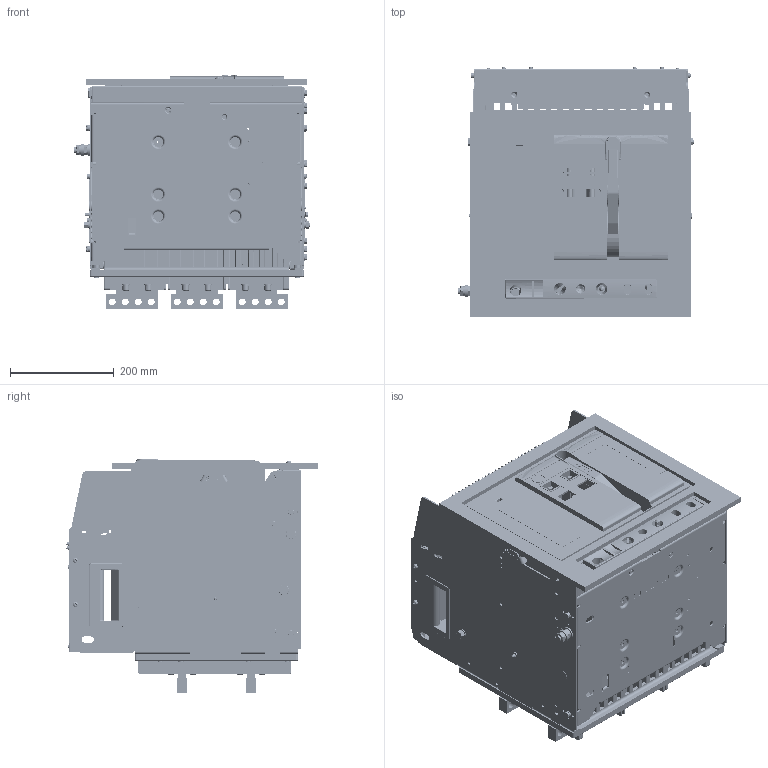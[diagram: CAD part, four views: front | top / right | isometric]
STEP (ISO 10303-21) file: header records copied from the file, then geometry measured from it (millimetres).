
FILE_DESCRIPTION (( 'STEP AP214' ), '1' );
FILE_NAME ('TGW1N-4000 D 3Ð 2500.STEP', '2026-06-04T10:04:52', ( '' ), ( '' ), 'SwSTEP 2.0', 'SolidWorks 2024', '' );
FILE_SCHEMA (( 'AUTOMOTIVE_DESIGN' ));
Length unit declared in the file: millimetre
Products named in the file (41): TGW1N-4000 D 3Р 2500; 6TZD_229_6011_AF0_ASM_1_ASM_1_ASM.stp; 8TZD_020_1016_1_1.stp; TENGEN_Рамка_3200-6300_Drawer; 5TZD_020_1044_AF0_ASM_1_ASM_1_ASM.stp; 8TZD_001_1005_1_1.stp; CTZ_1_1_2_ASM-0.stp; CTZ_1_1_2_2.stp; CTZ_1_1_2_ASM.stp; GB_T70_1-M6X20_1_1.stp; FHZ_1.stp; 2TZD_257_6012_ASM_1_ASM_1_ASM.stp; 8TZD_580_1082_AF3_1_1.stp; 5TZD_260_1003_AF1_ASM_1_ASM_1_ASM.stp; GB_T70_1-M8X25_1_1.stp; MZ_1.stp; GB_T93-6_1_1.stp; ASM0002_ASM_1_1.stp; TENGEN_TGW1N-4000_3p_2900-3200A_D (2).stp; 5TZD_020_1043_ASM_1_ASM_1_ASM.stp; 8TZD_580_1082_AF0_1_1.stp; 8TZD_311_1031_1_1.stp; GB_T97_1_6_1_1.stp; 8TZD_580_1088_1_1.stp; CTZ_1_1_2_3.stp; 8TZD_580_1083_AF0_1_1.stp; 8TZD_580_1083_AF1_1_1.stp; 8TZD_087_6008.stp; 8TZD_580_1082_AF1_1_1.stp; GB_T819_1-M6X16_1_1.stp; 5TZD_558_1012_1_1.stp; 5TZD_260_1003_AF0_ASM_1_ASM_1_ASM.stp; 2TZD_257_6012_ASM_ASM_1_ASM.stp; GB_T93-8_1_1.stp; 8TZD_156_6064.stp; 8TZD_580_1082_AF2_1_1.stp; 111111111_1_1.stp; GB_T809-M6X12-A_1_1.stp; TENGEN_Рамка_3200-6300_Drawer.stp; GB_T97_1_8_1_1.stp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
Assembly tree (183 placements, depth 8):
  TGW1N-4000 D 3Р 2500
    TENGEN_TGW1N-4000_3p_2900-3200A_D (2).stp
      2TZD_257_6012_ASM_ASM_1_ASM.stp
        2TZD_257_6012_ASM_1_ASM_1_ASM.stp
          6TZD_229_6011_AF0_ASM_1_ASM_1_ASM.stp
            5TZD_020_1044_AF0_ASM_1_ASM_1_ASM.stp
              5TZD_020_1043_ASM_1_ASM_1_ASM.stp
                8TZD_020_1016_1_1.stp
                GB_T809-M6X12-A_1_1.stp  x24
              5TZD_260_1003_AF0_ASM_1_ASM_1_ASM.stp
                8TZD_001_1005_1_1.stp
                8TZD_311_1031_1_1.stp
              5TZD_260_1003_AF1_ASM_1_ASM_1_ASM.stp
                8TZD_001_1005_1_1.stp
                8TZD_311_1031_1_1.stp
              8TZD_580_1088_1_1.stp  x6
              GB_T819_1-M6X16_1_1.stp  x24
              8TZD_580_1083_AF0_1_1.stp
              8TZD_580_1082_AF0_1_1.stp
              8TZD_580_1082_AF1_1_1.stp
              8TZD_580_1083_AF1_1_1.stp
              8TZD_580_1082_AF2_1_1.stp
              8TZD_580_1082_AF3_1_1.stp
              GB_T97_1_8_1_1.stp  x24
              GB_T93-8_1_1.stp  x24
              GB_T70_1-M8X25_1_1.stp  x24
            GB_T97_1_6_1_1.stp  x8
            GB_T93-6_1_1.stp  x8
            GB_T70_1-M6X20_1_1.stp  x8
          5TZD_558_1012_1_1.stp
          ASM0002_ASM_1_1.stp
          111111111_1_1.stp
        CTZ_1_1_2_ASM.stp
          CTZ_1_1_2_1.stp
          CTZ_1_1_2_2.stp
          CTZ_1_1_2_3.stp
          CTZ_1_1_2_ASM-0.stp
        MZ_1.stp
        FHZ_1.stp
    TENGEN_Рамка_3200-6300_Drawer
      TENGEN_Рамка_3200-6300_Drawer.stp
        8TZD_087_6008.stp
        8TZD_156_6064.stp
Bounding box: 452.15 x 483 x 451 mm (x, y, z)
Volume: 8250408.9 mm3; surface area: 4580636.5 mm2
Topology: 82 solids, 394 shells, 20034 faces, 52563 edges, 33206 vertices
Faces by surface type: plane 10824, cylinder 6349, cone 1551, bspline 594, torus 560, sphere 156
Entity records: 644283 total; most frequent: CARTESIAN_POINT 234668, ORIENTED_EDGE 89078, DIRECTION 78796, EDGE_CURVE 44672, VERTEX_POINT 28477, AXIS2_PLACEMENT_3D 26399, VECTOR 25998, LINE 25998
